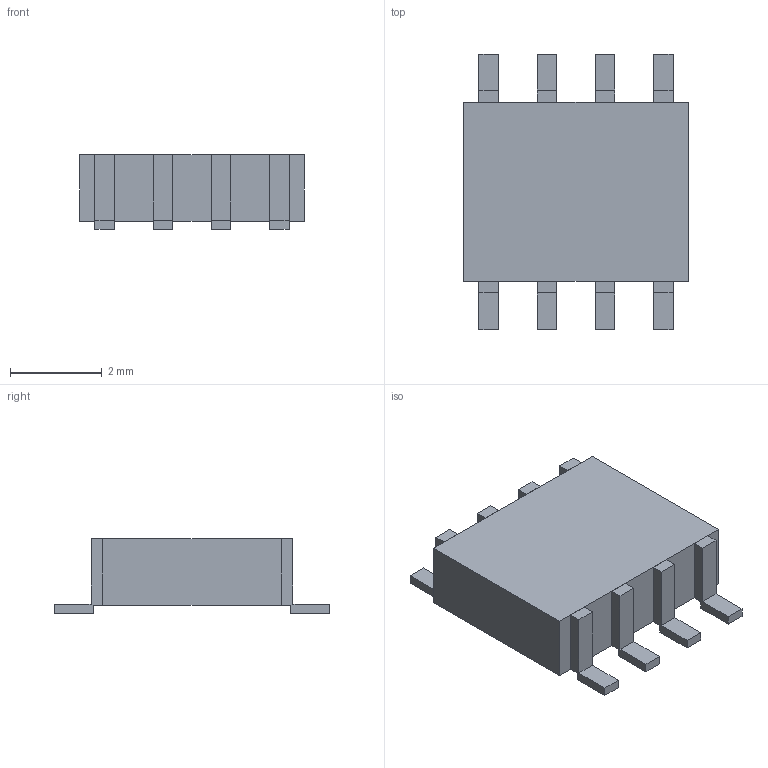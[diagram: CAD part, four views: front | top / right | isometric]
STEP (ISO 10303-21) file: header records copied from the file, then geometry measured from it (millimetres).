
FILE_DESCRIPTION(('Open CASCADE Model'),'2;1');
FILE_NAME('MT6701CT-STD_SOP8','2026-09-04T00:01:45',('Author'),( 'Open CASCADE'),'Open CASCADE STEP processor 7.9','build123d', 'Unknown');
FILE_SCHEMA(('AUTOMOTIVE_DESIGN { 1 0 10303 214 1 1 1 1 }'));
Length unit declared in the file: millimetre
Products named in the file (3): MT6701CT-STD_SOP8; body; leads_8x
Assembly tree (2 placements, depth 2):
  MT6701CT-STD_SOP8
    body
    leads_8x
Bounding box: 4.9 x 6 x 1.62 mm (x, y, z)
Volume: 29.5 mm3; surface area: 90.2 mm2
Topology: 9 solids, 9 shells, 86 faces, 204 edges, 136 vertices
Faces by surface type: plane 86
Entity records: 2458 total; most frequent: CARTESIAN_POINT 429, ORIENTED_EDGE 408, DIRECTION 382, EDGE_CURVE 204, LINE 204, VECTOR 204, VERTEX_POINT 136, AXIS2_PLACEMENT_3D 89
